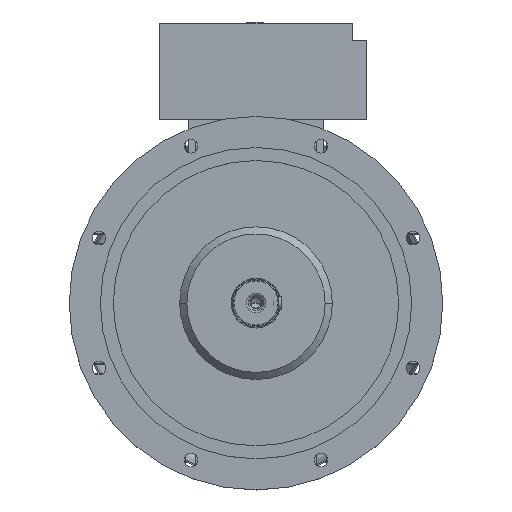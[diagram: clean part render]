
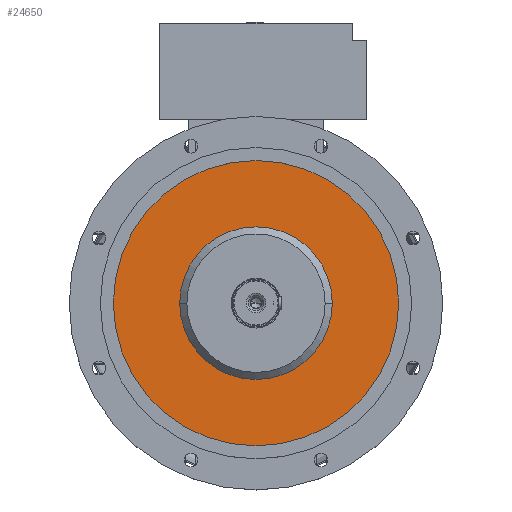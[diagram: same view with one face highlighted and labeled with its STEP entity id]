
A CAD part, top view. The second image highlights one B-rep face of the part: STEP entity #24650.
In plain terms, the highlighted planar face has unit normal (0, 0, 1).
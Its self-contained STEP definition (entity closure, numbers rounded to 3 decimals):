
#809 = CARTESIAN_POINT ( 'NONE',  ( -252.083, 0., 455.4 ) ) ;
#909 = EDGE_CURVE ( 'NONE', #10498, #14747, #2904, .T. ) ;
#1363 = CARTESIAN_POINT ( 'NONE',  ( 252.083, 0., 455.4 ) ) ;
#1682 = VERTEX_POINT ( 'NONE', #18454 ) ;
#2054 = PLANE ( 'NONE',  #10165 ) ;
#2865 = ORIENTED_EDGE ( 'NONE', *, *, #14205, .T. ) ;
#2904 = CIRCLE ( 'NONE', #6250, 252.083 ) ;
#3364 = CARTESIAN_POINT ( 'NONE',  ( 0., 0., 455.4 ) ) ;
#3852 = CARTESIAN_POINT ( 'NONE',  ( 0., 0., 455.4 ) ) ;
#3984 = ORIENTED_EDGE ( 'NONE', *, *, #23446, .T. ) ;
#6250 = AXIS2_PLACEMENT_3D ( 'NONE', #8227, #10124, #23637 ) ;
#6875 = EDGE_LOOP ( 'NONE', ( #19552, #3984 ) ) ;
#7466 = EDGE_LOOP ( 'NONE', ( #16432, #2865 ) ) ;
#7520 = DIRECTION ( 'NONE',  ( 0., 0., 1. ) ) ;
#8227 = CARTESIAN_POINT ( 'NONE',  ( 0., 0., 455.4 ) ) ;
#9196 = DIRECTION ( 'NONE',  ( -1., 0., 0. ) ) ;
#9580 = FACE_BOUND ( 'NONE', #6875, .T. ) ;
#10124 = DIRECTION ( 'NONE',  ( 0., 0., 1. ) ) ;
#10165 = AXIS2_PLACEMENT_3D ( 'NONE', #17435, #23228, #19584 ) ;
#10393 = VERTEX_POINT ( 'NONE', #19610 ) ;
#10498 = VERTEX_POINT ( 'NONE', #809 ) ;
#11976 = FACE_OUTER_BOUND ( 'NONE', #7466, .T. ) ;
#13329 = CIRCLE ( 'NONE', #18445, 252.083 ) ;
#14205 = EDGE_CURVE ( 'NONE', #14747, #10498, #13329, .T. ) ;
#14648 = DIRECTION ( 'NONE',  ( 0., 0., -1. ) ) ;
#14747 = VERTEX_POINT ( 'NONE', #1363 ) ;
#16432 = ORIENTED_EDGE ( 'NONE', *, *, #909, .T. ) ;
#16819 = DIRECTION ( 'NONE',  ( -1., 0., 0. ) ) ;
#16838 = EDGE_CURVE ( 'NONE', #1682, #10393, #18053, .T. ) ;
#17435 = CARTESIAN_POINT ( 'NONE',  ( 0., 252.083, 455.4 ) ) ;
#18053 = CIRCLE ( 'NONE', #24337, 134.8 ) ;
#18445 = AXIS2_PLACEMENT_3D ( 'NONE', #3852, #7520, #20891 ) ;
#18454 = CARTESIAN_POINT ( 'NONE',  ( -134.8, 0., 455.4 ) ) ;
#19552 = ORIENTED_EDGE ( 'NONE', *, *, #16838, .T. ) ;
#19584 = DIRECTION ( 'NONE',  ( 1., 0., 0. ) ) ;
#19610 = CARTESIAN_POINT ( 'NONE',  ( 134.8, 0., 455.4 ) ) ;
#20739 = DIRECTION ( 'NONE',  ( 0., 0., -1. ) ) ;
#20891 = DIRECTION ( 'NONE',  ( -1., 0., 0. ) ) ;
#22945 = CIRCLE ( 'NONE', #23888, 134.8 ) ;
#23228 = DIRECTION ( 'NONE',  ( 0., 0., 1. ) ) ;
#23446 = EDGE_CURVE ( 'NONE', #10393, #1682, #22945, .T. ) ;
#23637 = DIRECTION ( 'NONE',  ( -1., 0., 0. ) ) ;
#23888 = AXIS2_PLACEMENT_3D ( 'NONE', #3364, #20739, #9196 ) ;
#24223 = CARTESIAN_POINT ( 'NONE',  ( 0., 0., 455.4 ) ) ;
#24337 = AXIS2_PLACEMENT_3D ( 'NONE', #24223, #14648, #16819 ) ;
#24650 = ADVANCED_FACE ( 'NONE', ( #11976, #9580 ), #2054, .T. ) ;
